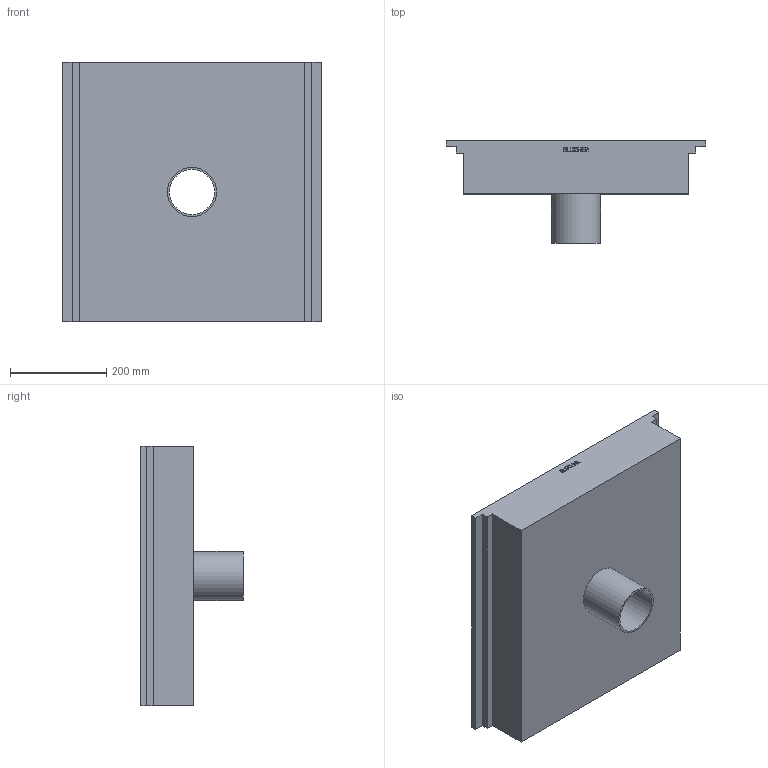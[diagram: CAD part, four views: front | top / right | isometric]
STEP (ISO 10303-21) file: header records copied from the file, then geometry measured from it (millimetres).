
FILE_DESCRIPTION((''),'2;1');
FILE_NAME('I:\WATTS\3D_CAD\3D_CAD_Models\Blucher_Drains\BKC_KitchenChannels\BKC-300\WebsiteFiles\3D\STEP\BKC-304-4.stp','2009-11-30T09:08:50',('menesek'),(''),'Autodesk Inventor 2010','Autodesk Inventor 2010','');
FILE_SCHEMA(('AUTOMOTIVE_DESIGN { 1 0 10303 214 1 1 1 1 }'));
Length unit declared in the file: inch
Products named in the file (1): BKC-304-4
Bounding box: 537 x 213 x 537 mm (x, y, z)
Volume: 3851765.2 mm3; surface area: 1054785.6 mm2
Topology: 1 solids, 1 shells, 142 faces, 385 edges, 257 vertices
Faces by surface type: plane 95, bspline 45, cylinder 2
Full cylindrical faces by diameter (mm): 93.6 x1, 101.6 x1
Entity records: 4799 total; most frequent: CARTESIAN_POINT 1501, ORIENTED_EDGE 764, DIRECTION 492, EDGE_CURVE 382, VECTOR 288, LINE 288, VERTEX_POINT 256, EDGE_LOOP 158
